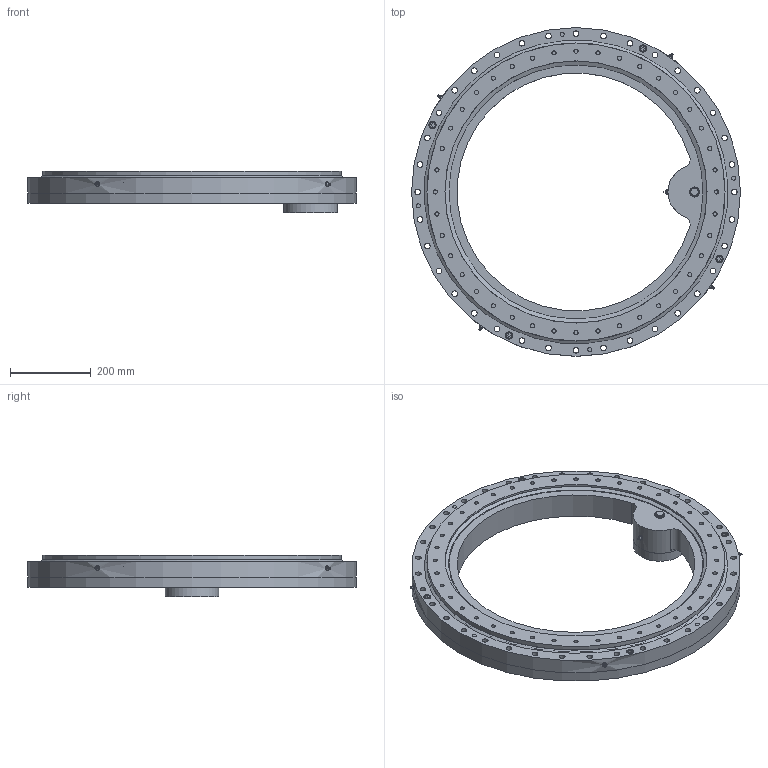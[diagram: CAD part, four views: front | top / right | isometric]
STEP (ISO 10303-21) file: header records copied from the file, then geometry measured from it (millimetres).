
FILE_DESCRIPTION(/* description */ ('STEP AP214'),/* implementation_level */ '2;1');
FILE_NAME(/* name */ '\\Serwer-ad\dnia$\dnia_tomasz_tb\Desktop\Tomcio\1. Cenniki + katalogi + materiały\U- Transmission\Katalogi 2023\Wersja NATECH DRV\Inner gear - slew drive\Our inner gear slew drive STEP\PT-L-0741-I-B-S.stp',/* time_stamp */ '2024-04-30T10:20:05+02:00',/* author */ ('dnia_tomasz_tb'),/* organization */ (''),/* preprocessor_version */ 'ST-DEVELOPER v19',/* originating_system */ 'Autodesk Inventor 2023',/* authorisation */ '');
FILE_SCHEMA (('AUTOMOTIVE_DESIGN { 1 0 10303 214 3 1 1 }'));
Length unit declared in the file: millimetre
Products named in the file (1): PT-L-0741-I-B-S
Bounding box: 815 x 815 x 103 mm (x, y, z)
Surface area: 1247822.5 mm2 (no closed solid volume)
Topology: 0 solids, 43 shells, 336 faces, 989 edges, 683 vertices
Faces by surface type: cylinder 157, plane 145, torus 19, cone 15
Full cylindrical faces by diameter (mm): 2 x2, 8.5 x4, 10 x4, 10.2 x44, 14 x36, 15 x8, 16 x36, 18 x4, 21 x1, 25 x1, 45 x1, 65 x1, 66 x1, 82.58 x1, 132 x1, 650 x1, 739 x1, 815 x2
Entity records: 12850 total; most frequent: CARTESIAN_POINT 2682, DIRECTION 2125, ORIENTED_EDGE 1636, EDGE_CURVE 987, AXIS2_PLACEMENT_3D 811, VERTEX_POINT 683, EDGE_LOOP 622, LINE 503
